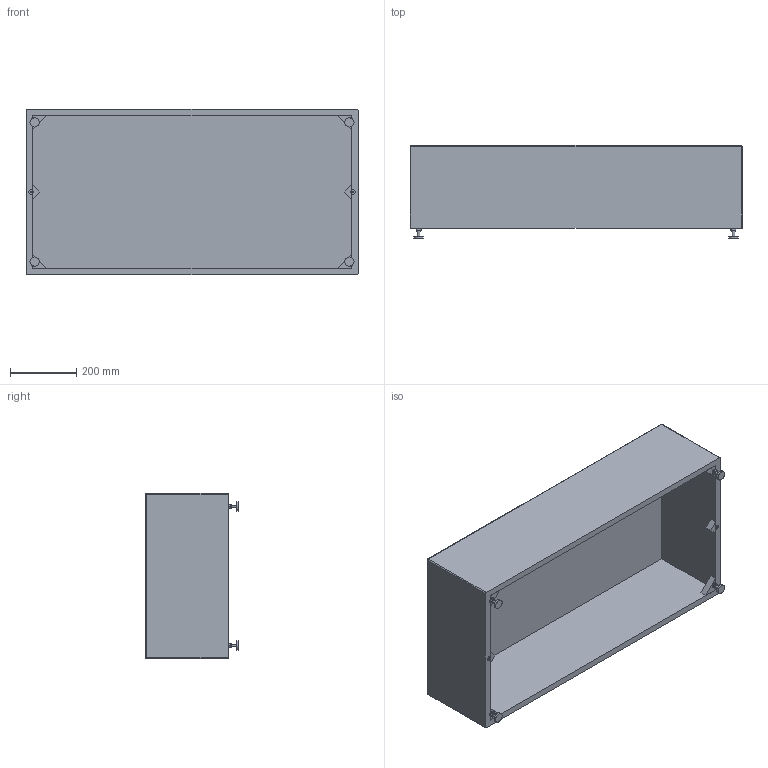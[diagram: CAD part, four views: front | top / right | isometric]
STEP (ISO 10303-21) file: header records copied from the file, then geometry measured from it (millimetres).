
FILE_DESCRIPTION(/* description */ ('Module'),/* implementation_level */ '2;1');
FILE_NAME(/* name */ 'C:\Users\cadcraft\AppData\Local\Temp\coui4acj.vgi\102009_A.stp',/* time_stamp */ '2021-11-17T10:14:41+01:00',/* author */ ('Torbjörn'),/* organization */ (''),/* preprocessor_version */ 'ST-DEVELOPER v18.1',/* originating_system */ 'Autodesk Inventor 2021',/* authorisation */ '');
FILE_SCHEMA (('CONFIG_CONTROL_DESIGN'));
Length unit declared in the file: millimetre
Products named in the file (6): 102009; 102007; Rivet Nut Wood M5; Rivet Nut Wood M8; 100288; ISO 4032 - M8
Assembly tree (15 placements, depth 2):
  102009
    102007
    Rivet Nut Wood M8  x4
    Rivet Nut Wood M5  x2
    100288  x4
    ISO 4032 - M8  x4
Bounding box: 1002 x 281 x 500 mm (x, y, z)
Volume: 23576028.2 mm3; surface area: 2450978.7 mm2
Topology: 21 solids, 21 shells, 175 faces, 382 edges, 260 vertices
Faces by surface type: plane 103, cylinder 44, cone 24, sphere 4
Full cylindrical faces by diameter (mm): 4.134 x2, 6.647 x8, 8 x4, 8.1 x2, 8.3 x2, 11.1 x4, 11.3 x4, 13 x2, 16 x4, 28 x4
Entity records: 2892 total; most frequent: DIRECTION 493, CARTESIAN_POINT 477, ORIENTED_EDGE 404, EDGE_CURVE 202, AXIS2_PLACEMENT_3D 189, VERTEX_POINT 137, LINE 115, VECTOR 115
